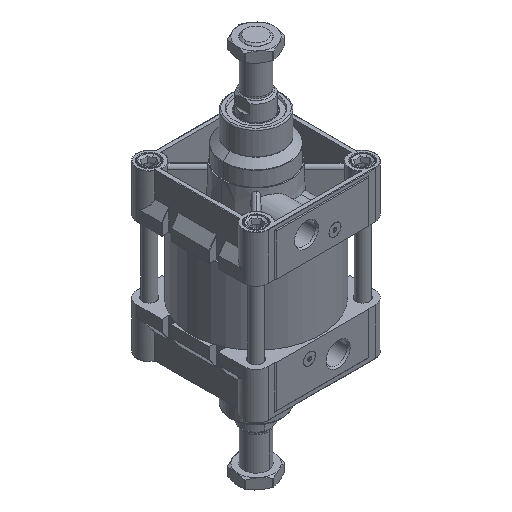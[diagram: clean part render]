
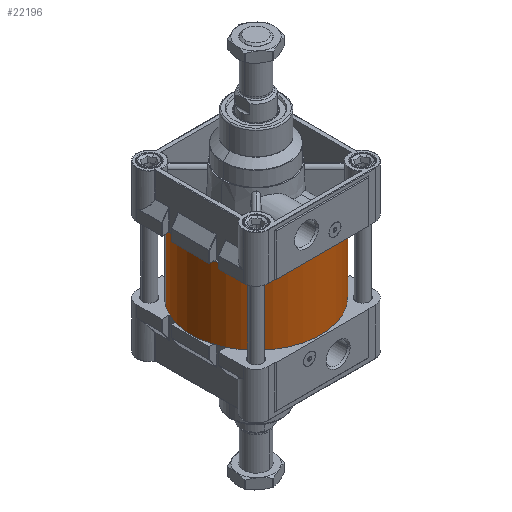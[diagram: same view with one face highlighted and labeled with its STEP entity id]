
A CAD part, isometric view. The second image highlights one B-rep face of the part: STEP entity #22196.
In plain terms, the highlighted cylindrical face has radius 54 mm (diameter 108 mm), a partial arc.
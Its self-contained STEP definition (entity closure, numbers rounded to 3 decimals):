
#1241 = AXIS2_PLACEMENT_3D ( 'NONE', #19238, #3661, #21824 ) ;
#3661 = DIRECTION ( 'NONE',  ( 0., 0., 1. ) ) ;
#3758 = LINE ( 'NONE', #33467, #9910 ) ;
#3924 = EDGE_CURVE ( 'NONE', #5759, #16093, #29017, .T. ) ;
#4073 = ORIENTED_EDGE ( 'NONE', *, *, #3924, .T. ) ;
#5759 = VERTEX_POINT ( 'NONE', #31788 ) ;
#5875 = CARTESIAN_POINT ( 'NONE',  ( 0., 0., 0. ) ) ;
#6696 = ORIENTED_EDGE ( 'NONE', *, *, #10915, .F. ) ;
#8508 = DIRECTION ( 'NONE',  ( 1., 0., 0. ) ) ;
#9481 = AXIS2_PLACEMENT_3D ( 'NONE', #24290, #21682, #13880 ) ;
#9910 = VECTOR ( 'NONE', #20521, 1000. ) ;
#10915 = EDGE_CURVE ( 'NONE', #15859, #24715, #3758, .T. ) ;
#11452 = CARTESIAN_POINT ( 'NONE',  ( 54., 0., 60. ) ) ;
#11803 = CIRCLE ( 'NONE', #20829, 54. ) ;
#12075 = CIRCLE ( 'NONE', #1241, 54. ) ;
#13880 = DIRECTION ( 'NONE',  ( -1., 0., 0. ) ) ;
#14269 = EDGE_LOOP ( 'NONE', ( #6696, #15130, #4073, #30693 ) ) ;
#15130 = ORIENTED_EDGE ( 'NONE', *, *, #28913, .F. ) ;
#15859 = VERTEX_POINT ( 'NONE', #11452 ) ;
#16093 = VERTEX_POINT ( 'NONE', #33338 ) ;
#16199 = CYLINDRICAL_SURFACE ( 'NONE', #9481, 54. ) ;
#19238 = CARTESIAN_POINT ( 'NONE',  ( 0., 0., 60. ) ) ;
#20521 = DIRECTION ( 'NONE',  ( 0., 0., -1. ) ) ;
#20829 = AXIS2_PLACEMENT_3D ( 'NONE', #5875, #24009, #8508 ) ;
#21682 = DIRECTION ( 'NONE',  ( 0., 0., -1. ) ) ;
#21824 = DIRECTION ( 'NONE',  ( 1., 0., 0. ) ) ;
#22137 = VECTOR ( 'NONE', #32621, 1000. ) ;
#22196 = ADVANCED_FACE ( 'NONE', ( #29942 ), #16199, .T. ) ;
#24009 = DIRECTION ( 'NONE',  ( 0., 0., 1. ) ) ;
#24290 = CARTESIAN_POINT ( 'NONE',  ( 0., 0., 60. ) ) ;
#24715 = VERTEX_POINT ( 'NONE', #32807 ) ;
#25438 = EDGE_CURVE ( 'NONE', #16093, #24715, #11803, .T. ) ;
#25458 = CARTESIAN_POINT ( 'NONE',  ( -54., 0., 60. ) ) ;
#28913 = EDGE_CURVE ( 'NONE', #5759, #15859, #12075, .T. ) ;
#29017 = LINE ( 'NONE', #25458, #22137 ) ;
#29942 = FACE_OUTER_BOUND ( 'NONE', #14269, .T. ) ;
#30693 = ORIENTED_EDGE ( 'NONE', *, *, #25438, .T. ) ;
#31788 = CARTESIAN_POINT ( 'NONE',  ( -54., 0., 60. ) ) ;
#32621 = DIRECTION ( 'NONE',  ( 0., 0., -1. ) ) ;
#32807 = CARTESIAN_POINT ( 'NONE',  ( 54., 0., 0. ) ) ;
#33338 = CARTESIAN_POINT ( 'NONE',  ( -54., 0., 0. ) ) ;
#33467 = CARTESIAN_POINT ( 'NONE',  ( 54., 0., 60. ) ) ;
